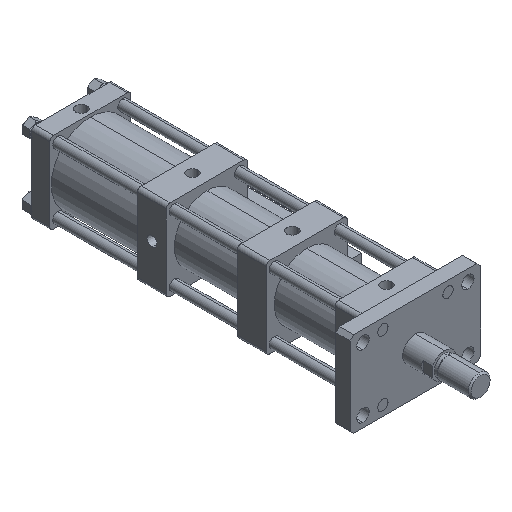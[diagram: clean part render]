
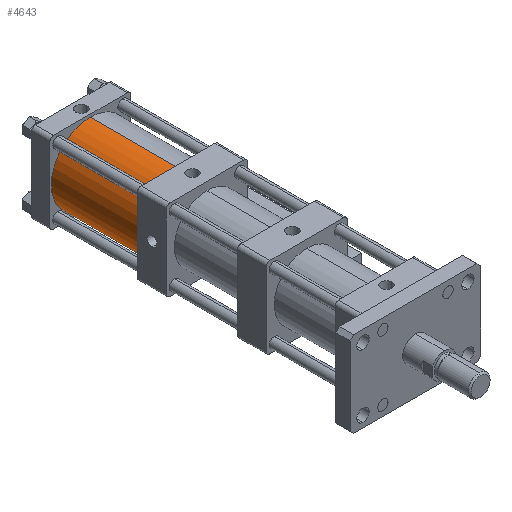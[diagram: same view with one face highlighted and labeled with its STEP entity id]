
A CAD part, isometric view. The second image highlights one B-rep face of the part: STEP entity #4643.
In plain terms, the highlighted cylindrical face has radius 54 mm (diameter 108 mm), a partial arc.
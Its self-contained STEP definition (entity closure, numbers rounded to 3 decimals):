
#72 = DIRECTION ( 'NONE',  ( 0., -1., 0. ) ) ;
#445 = CARTESIAN_POINT ( 'NONE',  ( 0., 449.002, -1.638 ) ) ;
#485 = DIRECTION ( 'NONE',  ( 0., 0., 1. ) ) ;
#1047 = DIRECTION ( 'NONE',  ( 0., 0., 1. ) ) ;
#1238 = DIRECTION ( 'NONE',  ( 0., 0., -1. ) ) ;
#1332 = LINE ( 'NONE', #2500, #6051 ) ;
#2500 = CARTESIAN_POINT ( 'NONE',  ( 0., 449.002, 52.362 ) ) ;
#2528 = VECTOR ( 'NONE', #3918, 1000. ) ;
#2552 = ORIENTED_EDGE ( 'NONE', *, *, #6511, .F. ) ;
#2829 = CARTESIAN_POINT ( 'NONE',  ( 0., 449.002, 52.362 ) ) ;
#2972 = CARTESIAN_POINT ( 'NONE',  ( 0., 328.002, -55.638 ) ) ;
#3282 = VERTEX_POINT ( 'NONE', #3292 ) ;
#3292 = CARTESIAN_POINT ( 'NONE',  ( 0., 328.002, 52.362 ) ) ;
#3299 = CIRCLE ( 'NONE', #3363, 54. ) ;
#3314 = VERTEX_POINT ( 'NONE', #4602 ) ;
#3338 = EDGE_CURVE ( 'NONE', #4569, #3282, #3299, .T. ) ;
#3363 = AXIS2_PLACEMENT_3D ( 'NONE', #7848, #4166, #485 ) ;
#3661 = DIRECTION ( 'NONE',  ( 0., -1., 0. ) ) ;
#3918 = DIRECTION ( 'NONE',  ( 0., -1., 0. ) ) ;
#4166 = DIRECTION ( 'NONE',  ( 0., 1., 0. ) ) ;
#4414 = VERTEX_POINT ( 'NONE', #2829 ) ;
#4450 = EDGE_CURVE ( 'NONE', #3314, #4414, #4822, .T. ) ;
#4569 = VERTEX_POINT ( 'NONE', #2972 ) ;
#4602 = CARTESIAN_POINT ( 'NONE',  ( 0., 449.002, -55.638 ) ) ;
#4604 = ORIENTED_EDGE ( 'NONE', *, *, #5575, .T. ) ;
#4643 = ADVANCED_FACE ( 'NONE', ( #6947 ), #6739, .T. ) ;
#4755 = DIRECTION ( 'NONE',  ( 0., 1., 0. ) ) ;
#4822 = CIRCLE ( 'NONE', #5365, 54. ) ;
#5365 = AXIS2_PLACEMENT_3D ( 'NONE', #445, #4755, #1047 ) ;
#5575 = EDGE_CURVE ( 'NONE', #3314, #4569, #6008, .T. ) ;
#6008 = LINE ( 'NONE', #7600, #2528 ) ;
#6051 = VECTOR ( 'NONE', #72, 1000. ) ;
#6169 = CARTESIAN_POINT ( 'NONE',  ( 0., 449.002, -1.638 ) ) ;
#6171 = ORIENTED_EDGE ( 'NONE', *, *, #3338, .T. ) ;
#6331 = EDGE_LOOP ( 'NONE', ( #2552, #7614, #4604, #6171 ) ) ;
#6511 = EDGE_CURVE ( 'NONE', #4414, #3282, #1332, .T. ) ;
#6739 = CYLINDRICAL_SURFACE ( 'NONE', #6973, 54. ) ;
#6947 = FACE_OUTER_BOUND ( 'NONE', #6331, .T. ) ;
#6973 = AXIS2_PLACEMENT_3D ( 'NONE', #6169, #3661, #1238 ) ;
#7600 = CARTESIAN_POINT ( 'NONE',  ( 0., 449.002, -55.638 ) ) ;
#7614 = ORIENTED_EDGE ( 'NONE', *, *, #4450, .F. ) ;
#7848 = CARTESIAN_POINT ( 'NONE',  ( 0., 328.002, -1.638 ) ) ;
